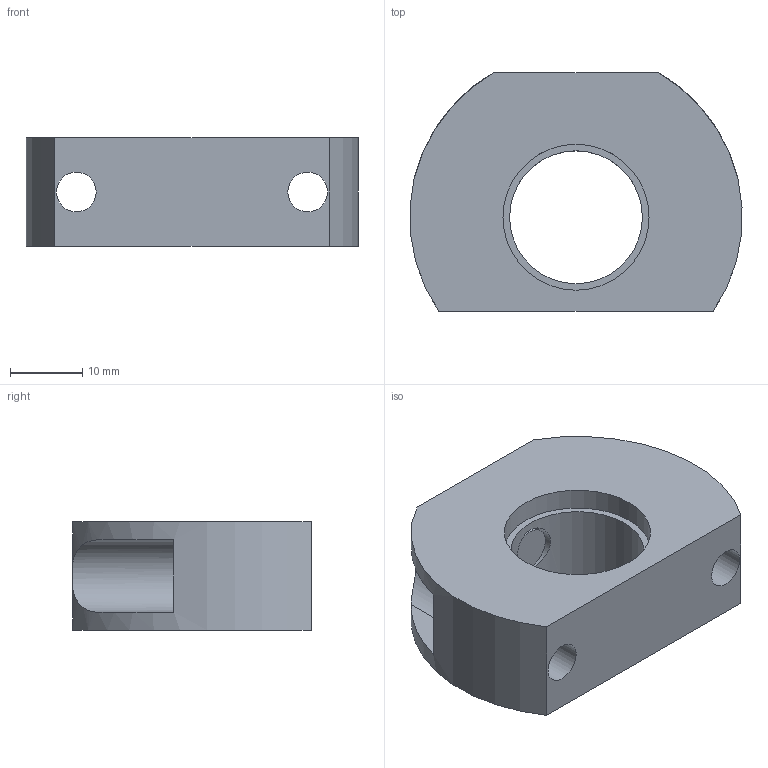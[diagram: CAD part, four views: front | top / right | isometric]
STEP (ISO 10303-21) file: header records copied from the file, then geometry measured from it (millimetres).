
FILE_DESCRIPTION( ( 'STEP AP203' ), '1' );
FILE_NAME( 'C:/Temp/Ganter_Step_05_03_2020/data/3_1/gn612n_1/gn612n_1_b/Stainless steel-Mounting block GN 612.1-M20x1,5-B-NI.stp', '2020-03-12T08:37:14', ( 'License CC BY-ND 4.0' ), ( 'CADENAS' ), ' ', 'PARTsolutions', ' ' );
FILE_SCHEMA( ( 'CONFIG_CONTROL_DESIGN' ) );
Length unit declared in the file: millimetre
Products named in the file (1): _Stainless steel-Mounting block GN 612.1-M20x1,5-B-NI
Bounding box: 45.91 x 33 x 15 mm (x, y, z)
Volume: 12662.5 mm3; surface area: 6371.1 mm2
Topology: 1 solids, 1 shells, 37 faces, 87 edges, 57 vertices
Faces by surface type: plane 23, cylinder 11, cone 3
Full cylindrical faces by diameter (mm): 5.5 x2, 6 x1, 6.647 x2, 10 x2, 18.376 x1, 20.2 x1
Entity records: 1150 total; most frequent: CARTESIAN_POINT 281, DIRECTION 174, ORIENTED_EDGE 146, EDGE_CURVE 73, AXIS2_PLACEMENT_3D 68, EDGE_LOOP 60, VERTEX_POINT 55, FACE_OUTER_BOUND 46
